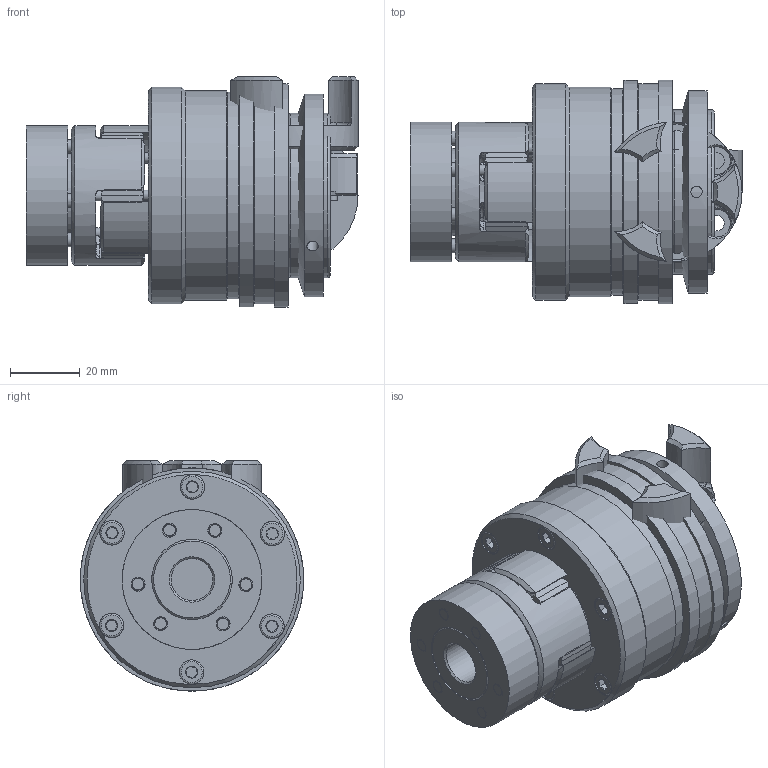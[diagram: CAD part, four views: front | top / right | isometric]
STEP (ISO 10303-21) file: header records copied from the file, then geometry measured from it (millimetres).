
FILE_DESCRIPTION( ( 'Unknown' ), '1' );
FILE_NAME( 'C:/Dokumente und Einstellungen/Sven/Desktop/hp kbk/E-AI/KBK EAI-19-88.stp', 'Unknown', ( 'Unknown' ), ( 'Unknown' ), 'XStep 1.0', 'Unknown', ' ' );
FILE_SCHEMA( ( 'automotive_design' ) );
Length unit declared in the file: millimetre
Products named in the file (17): Assem1; Assem2; ball_bearing_-_6005_0_01_0; ball_bearing_-_6005_0_02_0; ball_bearing_-_6005_0_03_0; Stellring 30_0; Druckring 30_0; a_25_0; Flansch L30_0; ISO EN DIN 4762_M4x16_0; KBE3-19_Druckring_0; KBK L-I-30 Grundkörper_0; Konusbuchse KBK L-I-30_0; din_en_24017_m5x16_0; Elastomerflansch 19_0; Zahnkranz_19_Standard_0; KBE 3 C - 19_Nabe_0
Bounding box: 95 x 64 x 66 mm (x, y, z)
Volume: 282770.7 mm3; surface area: 163578.4 mm2
Topology: 49 solids, 49 shells, 1282 faces, 2812 edges, 1753 vertices
Faces by surface type: plane 465, cylinder 362, cone 317, torus 90, bspline 48
Full cylindrical faces by diameter (mm): 2 x4, 3 x12, 3.242 x18, 3.3 x18, 3.5 x13, 4 x26, 4.134 x18, 4.2 x12, 4.5 x12, 5 x7, 5.5 x12, 6.88 x7, 7 x25, 8 x14, 12 x6, 18 x4, 22 x2, 23.9 x2, 24.4 x2, 24.925 x2, 25 x7, 32 x6, 34 x2, 38 x4, 39.5 x2, 40 x6, 40.3 x6, 47 x7, 52 x2, 58 x2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
Entity records: 13220 total; most frequent: CARTESIAN_POINT 3359, DIRECTION 2060, ORIENTED_EDGE 1648, AXIS2_PLACEMENT_3D 945, EDGE_CURVE 824, EDGE_LOOP 712, VERTEX_POINT 596, FACE_OUTER_BOUND 558
